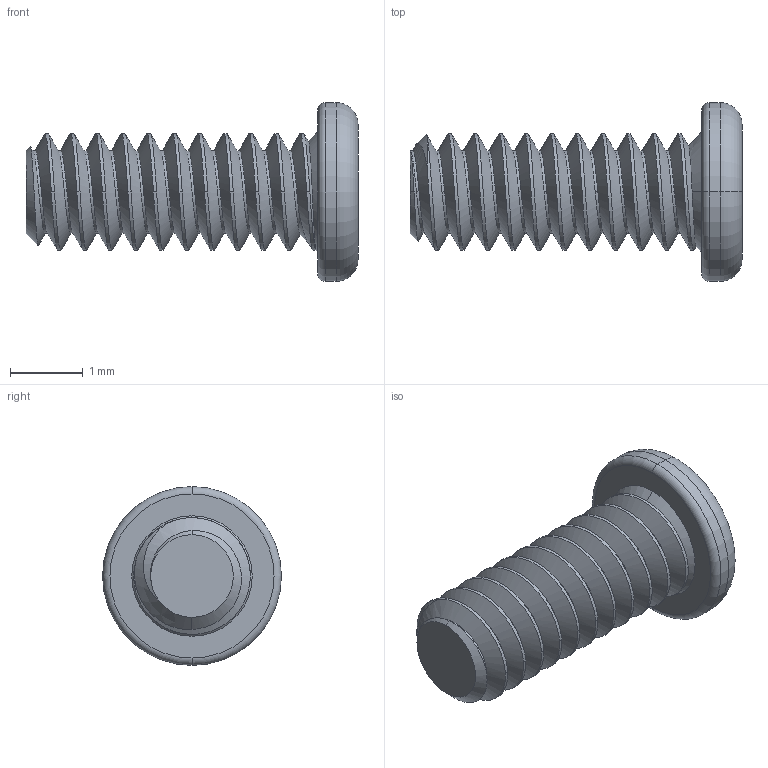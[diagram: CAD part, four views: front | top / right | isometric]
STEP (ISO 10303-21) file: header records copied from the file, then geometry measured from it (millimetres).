
FILE_DESCRIPTION (( 'STEP AP203' ), '1' );
FILE_NAME ('M16-40-M-SS-P-USMICROSCREW.STEP', '2014-12-10T08:45:04', ( 'Chromium' ), ( 'Microsoft' ), 'SwSTEP 2.0', 'SolidWorks 2014', '' );
FILE_SCHEMA (( 'CONFIG_CONTROL_DESIGN' ));
Length unit declared in the file: millimetre
Products named in the file (1): M16-40-M-SS-P-USMICROSCREW
Bounding box: 4.55 x 2.45 x 2.45 mm (x, y, z)
Volume: 8.3 mm3; surface area: 42.3 mm2
Topology: 1 solids, 1 shells, 89 faces, 240 edges, 151 vertices
Faces by surface type: cylinder 57, plane 16, cone 6, bspline 6, torus 4
Entity records: 4139 total; most frequent: CARTESIAN_POINT 2232, ORIENTED_EDGE 472, DIRECTION 296, EDGE_CURVE 236, VERTEX_POINT 151, AXIS2_PLACEMENT_3D 106, EDGE_LOOP 91, FACE_OUTER_BOUND 89
